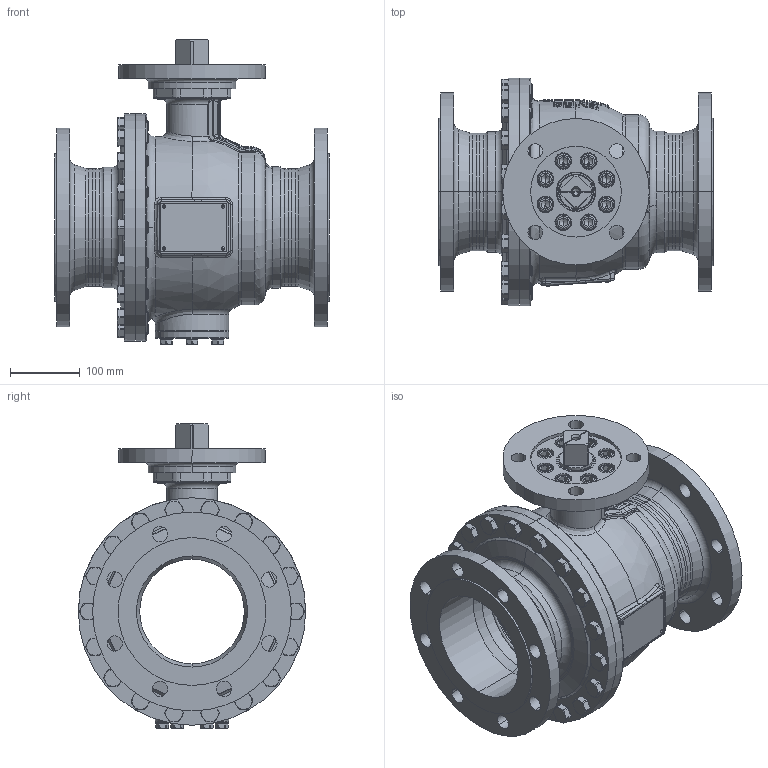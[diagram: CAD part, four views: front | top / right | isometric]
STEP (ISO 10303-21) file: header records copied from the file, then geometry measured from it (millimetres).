
FILE_DESCRIPTION((''),'2;1');
FILE_NAME('KHI-F_150_PN010-F16-4_SW0001','2026-02-05T11:51:39',('fischerkl'),('KLINGER'),'CREO PARAMETRIC BY PTC INC, 2023014','CREO PARAMETRIC BY PTC INC, 2023014','');
FILE_SCHEMA(('CONFIG_CONTROL_DESIGN'));
Products named in the file (1): KHI-F_150_PN010-F16-4_SW0001
Bounding box: 394 x 326 x 436.2 mm (x, y, z)
Volume: 8007733.9 mm3; surface area: 1570587.2 mm2
Topology: 1 solids, 4 shells, 3722 faces, 9522 edges, 5940 vertices
Faces by surface type: plane 2285, cylinder 670, cone 366, torus 260, bspline 113, sphere 28
Entity records: 144220 total; most frequent: CARTESIAN_POINT 56291, ORIENTED_EDGE 18992, DIRECTION 17372, EDGE_CURVE 9496, AXIS2_PLACEMENT_3D 6126, VERTEX_POINT 5940, VECTOR 5120, LINE 5120
